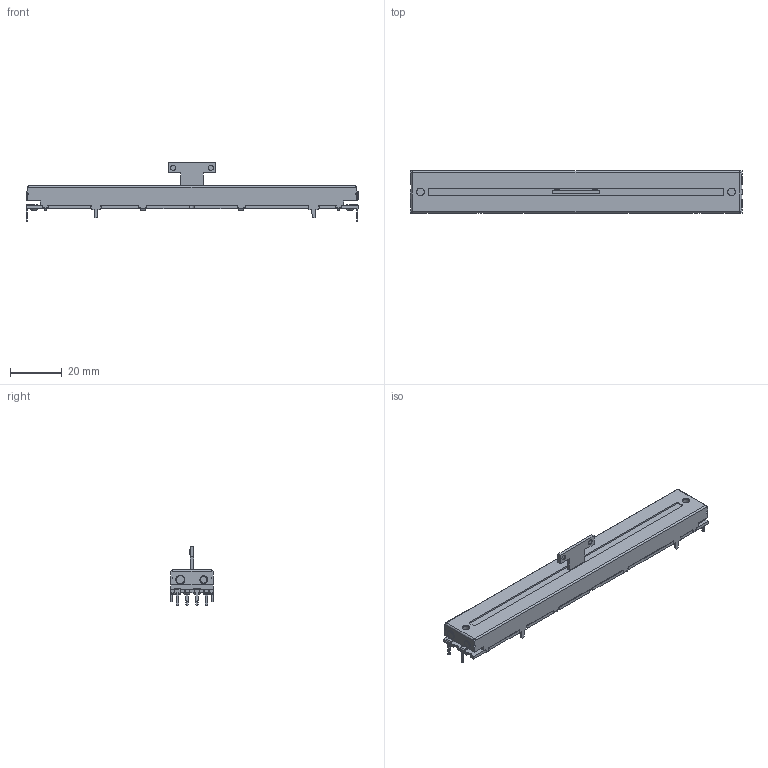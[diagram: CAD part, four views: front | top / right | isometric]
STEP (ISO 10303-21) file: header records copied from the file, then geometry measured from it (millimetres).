
FILE_DESCRIPTION(('FreeCAD Model'),'2;1');
FILE_NAME('Open CASCADE Shape Model','2026-03-31T08:02:12',(''),(''), 'Open CASCADE STEP processor 7.8','FreeCAD','Unknown');
FILE_SCHEMA(('AUTOMOTIVE_DESIGN { 1 0 10303 214 1 1 1 1 }'));
Length unit declared in the file: millimetre
Products named in the file (1): 2DSVA-110X
Bounding box: 128 x 16.5 x 22.7 mm (x, y, z)
Volume: 17813.8 mm3; surface area: 7878.5 mm2
Topology: 1 solids, 1 shells, 574 faces, 1592 edges, 1040 vertices
Faces by surface type: plane 409, cylinder 155, cone 10
Full cylindrical faces by diameter (mm): 0.5 x6, 1.5 x2, 2 x4, 3 x4, 3.5 x2, 4 x2
Entity records: 20829 total; most frequent: CARTESIAN_POINT 3213, ORIENTED_EDGE 3184, DIRECTION 3094, EDGE_CURVE 1592, LINE 1228, VECTOR 1228, VERTEX_POINT 1040, AXIS2_PLACEMENT_3D 933
